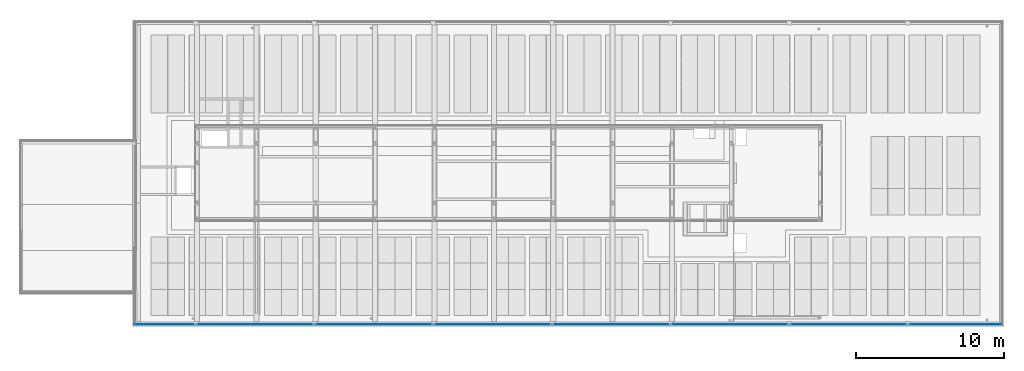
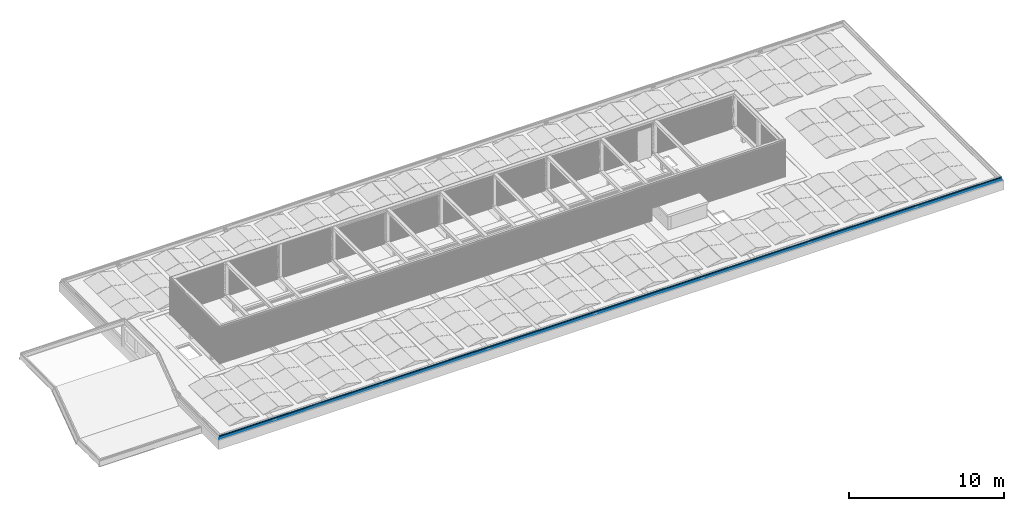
# One storey, part 29 of 63: 3 building element parts, 1 element without a shape of its own.
"""IFC2X3 building model written with IfcOpenShell, lengths in millimetres."""

from ifc_helpers import new_model, entity, si_unit, converted_unit, derived_unit, money_unit, direction, frame, origin_with_axes, place, context, subcontext, project, spatial, faceted_brep, material, type_object, element, aggregate, save


model = new_model("IFC2X3")

# Units and contexts
model_context = context("Model", 3, precision=0.01, world=origin_with_axes(), true_north=direction((0.0, 1.0)))
body_context = subcontext(model_context, "Body", "Model", "MODEL_VIEW")
ifc_project = project(units=[si_unit("LENGTHUNIT", "METRE", prefix="MILLI"), si_unit("AREAUNIT", "SQUARE_METRE"), si_unit("VOLUMEUNIT", "CUBIC_METRE"), converted_unit("PLANEANGLEUNIT", "DEGREE", entity("IfcPlaneAngleMeasure", 0.0174532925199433), si_unit("PLANEANGLEUNIT", "RADIAN"), dimensions=[0, 0, 0, 0, 0, 0, 0]), money_unit("EUR"), converted_unit("TIMEUNIT", "Year", entity("IfcTimeMeasure", 31557600.0), si_unit("TIMEUNIT", "SECOND"), dimensions=[0, 0, 1, 0, 0, 0, 0]), si_unit("MASSUNIT", "GRAM", prefix="KILO"), si_unit("THERMODYNAMICTEMPERATUREUNIT", "DEGREE_CELSIUS"), si_unit("LUMINOUSINTENSITYUNIT", "LUMEN"), si_unit("ENERGYUNIT", "JOULE", prefix="MEGA"), derived_unit("THERMALCONDUCTANCEUNIT", [(si_unit("POWERUNIT", "WATT"), 1), (si_unit("LENGTHUNIT", "METRE"), -1), (si_unit("THERMODYNAMICTEMPERATUREUNIT", "KELVIN"), -1)]), derived_unit("SPECIFICHEATCAPACITYUNIT", [(si_unit("ENERGYUNIT", "JOULE"), 1), (si_unit("MASSUNIT", "GRAM", prefix="KILO"), -1), (si_unit("THERMODYNAMICTEMPERATUREUNIT", "KELVIN"), -1)]), derived_unit("MASSDENSITYUNIT", [(si_unit("MASSUNIT", "GRAM", prefix="KILO"), 1), (si_unit("VOLUMEUNIT", "CUBIC_METRE"), -1)])], contexts=[model_context])

# Site, building, storey
site_placement = place(None, origin_with_axes())
site = spatial("IfcSite", under=ifc_project, at=site_placement, Name="<site naam>", CompositionType="ELEMENT")
building_placement = place(site_placement, origin_with_axes())
building = spatial("IfcBuilding", under=site, at=building_placement, Name="<Naam gebouw>", CompositionType="ELEMENT")
storey_placement = place(building_placement, frame((0.0, 0.0, 12770.0), z_axis=(0.0, 0.0, 1.0), x_axis=(1.0, 0.0, 0.0)))
storey = spatial("IfcBuildingStorey", under=building, at=storey_placement, Name="04 4e verdieping", CompositionType="ELEMENT", Elevation=12770.0)

# Beam, building element parts
beam_type = type_object("IfcBeamType", Name="Aluminium daktrim 45 x 250", PredefinedType="BEAM")
beam_placement = place(storey_placement, frame((11665.00000242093, -324.9999975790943, -14.55215314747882), z_axis=(0.0, 0.0, 1.0), x_axis=(0.0, -1.0, 0.0)))
beam = element("IfcBeam", 1, at=beam_placement, inside=storey, type_object=beam_type, Name="47_Balk_Aluminium", ObjectType="BEAM")
ifc_material = material(Name="aluminium")
building_element_part_1_placement = place(beam_placement, origin_with_axes())
building_element_part_1 = element("IfcBuildingElementPart", 2, at=building_element_part_1_placement, material=ifc_material, Name="aluminium", context=body_context, shape_type="Brep", body=[
    faceted_brep([(-121.4991945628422, 58583.50080059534, 294.0656451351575), (-122.2068758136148, 58582.79311934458, 293.7721760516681), (-122.2068758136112, 122.2068758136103, 293.7721760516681), (-121.4991945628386, 121.499194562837, 294.0656451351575), (-110.9991946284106, 58594.00080052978, 294.0656451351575), (-110.292087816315, 58594.70790734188, 293.7727519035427), (-109.9991945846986, 58595.00080057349, 293.0656450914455), (-109.9991945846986, 58595.00080057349, 250.0656451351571), (-110.2920878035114, 58594.70790735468, 249.3585383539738), (-110.9991945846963, 58594.00080057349, 249.0656451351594), (-111.4991731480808, 58593.50082201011, 249.1996073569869), (-117.6977781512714, 58587.30221700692, 252.7781690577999), (-117.9774779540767, 58587.02251720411, 253.1426342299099), (-117.917573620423, 58587.08242153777, 253.598132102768), (-117.5531500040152, 58587.44684515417, 253.8778860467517), (-117.0976432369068, 58587.90235192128, 253.8180493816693), (-113.897632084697, 58591.10236307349, 251.9718951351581), (-113.897632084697, 58591.10236307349, 252.565645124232), (-113.7511854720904, 58591.2488096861, 252.9191985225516), (-113.3976320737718, 58591.60236308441, 253.0656451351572), (-113.1984133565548, 58591.80158180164, 253.0656451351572), (-112.8448599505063, 58592.15513520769, 252.9191985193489), (-112.6984133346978, 58592.30158182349, 252.5656451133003), (-112.6984133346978, 58592.30158182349, 251.278535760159), (-111.9489165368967, 58593.05107862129, 250.8452329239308), (-111.6116899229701, 58593.38830523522, 250.7856033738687), (-111.315064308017, 58593.68493085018, 250.9567486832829), (-111.1979101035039, 58593.80208505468, 251.278544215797), (-111.1984133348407, 58593.80158182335, 281.0656535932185), (-111.3448629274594, 58593.65513223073, 281.419201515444), (-111.6984133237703, 58593.30158183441, 281.5656451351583), (-112.198413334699, 58592.80158182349, 281.5656451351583), (-112.5519667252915, 58592.44802843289, 281.4191985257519), (-112.6984133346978, 58592.30158182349, 281.0656451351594), (-112.6984133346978, 58592.30158182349, 279.5656451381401), (-112.8448599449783, 58592.15513521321, 279.212091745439), (-113.198413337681, 58591.80158182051, 279.065645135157), (-114.9718508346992, 58590.02814432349, 279.065645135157), (-120.1773366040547, 58584.82265855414, 275.7461395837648), (-120.3116945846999, 58584.68830057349, 275.4250201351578), (-120.5695070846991, 58584.4304880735, 275.3156451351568), (-120.8898195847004, 58584.11017557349, 275.448457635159), (-121.5401955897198, 58583.45979956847, 275.2060759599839), (-121.6945070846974, 58583.3054880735, 274.897676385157), (-121.964038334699, 58583.0359568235, 274.8078326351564), (-122.2726320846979, 58582.72736307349, 274.9640826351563), (-128.1981216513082, 58576.80187350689, 274.066030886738), (-154.6486035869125, 58550.35139157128, 274.0656451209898), (-154.8951277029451, 58550.10486745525, 274.1677553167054), (-154.9972414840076, 58550.00275367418, 274.4142779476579), (-154.894784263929, 58550.10521089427, 274.6611444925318), (-154.6476320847, 58550.35236307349, 274.7629107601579), (-149.9991945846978, 58555.0008005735, 275.2648638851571), (-149.6984133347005, 58555.30158182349, 275.565645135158), (-147.2999758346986, 58557.7000193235, 275.565645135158), (-146.9991945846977, 58558.00080057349, 275.2648638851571), (-143.9991945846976, 58561.00080057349, 275.2648638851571), (-143.6984133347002, 58561.30158182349, 275.565645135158), (-141.2999758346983, 58563.7000193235, 275.565645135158), (-140.999194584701, 58564.00080057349, 275.2648638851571), (-137.9991945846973, 58567.00080057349, 275.2648638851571), (-137.6984133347, 58567.30158182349, 275.565645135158), (-135.2999758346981, 58569.70001932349, 275.565645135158), (-134.9991945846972, 58570.00080057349, 275.2648638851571), (-131.9991945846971, 58573.0008005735, 275.2648638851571), (-131.6984133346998, 58573.30158182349, 275.565645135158), (-129.2999758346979, 58575.70001932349, 275.565645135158), (-128.999194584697, 58576.00080057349, 275.2648638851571), (-128.1984107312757, 58576.80158442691, 275.2648638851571), (-120.0158638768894, 58584.98413128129, 277.1388822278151), (-113.4645529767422, 58591.53544218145, 282.3873432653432), (-112.6841977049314, 58592.31579745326, 282.7641787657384), (-112.197003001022, 58592.80299215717, 282.7648658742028), (-111.490808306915, 58593.50918685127, 283.0582564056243), (-111.1984133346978, 58593.80158182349, 283.7648638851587), (-111.1984133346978, 58593.80158182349, 292.3664263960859), (-111.3448599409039, 58593.65513521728, 292.719979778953), (-111.6984133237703, 58593.30158183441, 292.8664263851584), (-120.7999758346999, 58584.2000193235, 292.8664263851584), (-121.1535292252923, 58583.8464659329, 292.7199797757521), (-121.2999758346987, 58583.70001932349, 292.3664263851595), (-121.2999758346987, 58583.70001932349, 290.6652544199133), (-121.4748532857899, 58583.52514187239, 290.2428198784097), (-121.8971453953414, 58583.10284976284, 290.0675987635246), (-122.3197220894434, 58582.68027306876, 290.2421324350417), (-122.4952867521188, 58582.50470840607, 290.6642818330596), (-122.4991919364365, 58582.50080322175, 293.0640177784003), (-122.4991919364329, 122.4991919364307, 293.0640177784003), (-122.4952867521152, 122.4952867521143, 290.6642818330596), (-122.3197220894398, 122.3197220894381, 290.2421324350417), (-121.8971453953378, 121.8971453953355, 290.0675987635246), (-121.4748532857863, 121.4748532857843, 290.2428198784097), (-121.2999758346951, 121.2999758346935, 290.6652544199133), (-121.2999758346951, 121.2999758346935, 292.3664263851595), (-121.1535292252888, 121.1535292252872, 292.7199797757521), (-120.7999758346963, 120.7999758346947, 292.8664263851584), (-111.6984133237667, 111.6984133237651, 292.8664263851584), (-111.3448599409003, 111.3448599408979, 292.719979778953), (-111.1984133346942, 111.1984133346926, 292.3664263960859), (-111.1984133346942, 111.1984133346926, 283.7648638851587), (-111.4908083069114, 111.4908083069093, 283.0582564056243), (-112.1970030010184, 112.1970030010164, 282.7648658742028), (-112.6841977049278, 112.684197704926, 282.7641787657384), (-113.4645529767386, 113.4645529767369, 282.3873432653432), (-120.0158638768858, 120.0158638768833, 277.1388822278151), (-128.1984107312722, 128.1984107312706, 275.2648638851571), (-128.9991945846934, 128.9991945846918, 275.2648638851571), (-129.2999758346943, 129.2999758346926, 275.565645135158), (-131.6984133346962, 131.6984133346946, 275.565645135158), (-131.9991945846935, 131.9991945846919, 275.2648638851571), (-134.9991945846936, 134.999194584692, 275.2648638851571), (-135.2999758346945, 135.2999758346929, 275.565645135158), (-137.6984133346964, 137.6984133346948, 275.565645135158), (-137.9991945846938, 137.9991945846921, 275.2648638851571), (-140.9991945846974, 140.9991945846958, 275.2648638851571), (-141.2999758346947, 141.2999758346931, 275.565645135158), (-143.6984133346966, 143.698413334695, 275.565645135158), (-143.999194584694, 143.9991945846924, 275.2648638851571), (-146.9991945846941, 146.9991945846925, 275.2648638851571), (-147.2999758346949, 147.2999758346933, 275.565645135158), (-149.6984133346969, 149.6984133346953, 275.565645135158), (-149.9991945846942, 149.9991945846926, 275.2648638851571), (-154.6476320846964, 154.6476320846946, 274.7629107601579), (-154.8947842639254, 154.8947842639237, 274.6611444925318), (-154.997241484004, 154.9972414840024, 274.4142779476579), (-154.8951277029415, 154.8951277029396, 274.1677553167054), (-154.6486035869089, 154.6486035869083, 274.0656451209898), (-128.1981216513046, 128.1981216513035, 274.066030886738), (-122.2726320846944, 122.2726320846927, 274.9640826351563), (-121.9640383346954, 121.9640383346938, 274.8078326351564), (-121.6945070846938, 121.6945070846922, 274.897676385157), (-121.5401955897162, 121.5401955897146, 275.2060759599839), (-120.8898195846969, 120.8898195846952, 275.448457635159), (-120.5695070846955, 120.5695070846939, 275.3156451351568), (-120.3116945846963, 120.3116945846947, 275.4250201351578), (-120.1773366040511, 120.1773366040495, 275.7461395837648), (-114.9718508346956, 114.971850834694, 279.065645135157), (-113.1984133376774, 113.1984133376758, 279.065645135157), (-112.8448599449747, 112.844859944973, 279.212091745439), (-112.6984133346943, 112.6984133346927, 279.5656451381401), (-112.6984133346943, 112.6984133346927, 281.0656451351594), (-112.5519667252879, 112.5519667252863, 281.4191985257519), (-112.1984133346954, 112.1984133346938, 281.5656451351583), (-111.6984133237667, 111.6984133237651, 281.5656451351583), (-111.3448629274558, 111.3448629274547, 281.419201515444), (-111.1984133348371, 111.1984133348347, 281.0656535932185), (-111.1979101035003, 111.197910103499, 251.278544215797), (-111.3150643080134, 111.3150643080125, 250.9567486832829), (-111.6116899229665, 111.6116899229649, 250.7856033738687), (-111.9489165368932, 111.9489165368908, 250.8452329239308), (-112.6984133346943, 112.6984133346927, 251.278535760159), (-112.6984133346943, 112.6984133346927, 252.5656451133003), (-112.8448599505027, 112.844859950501, 252.9191985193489), (-113.1984133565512, 113.1984133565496, 253.0656451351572), (-113.3976320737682, 113.3976320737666, 253.0656451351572), (-113.7511854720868, 113.7511854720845, 252.9191985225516), (-113.8976320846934, 113.8976320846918, 252.565645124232), (-113.8976320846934, 113.8976320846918, 251.9718951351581), (-117.0976432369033, 117.0976432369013, 253.8180493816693), (-117.5531500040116, 117.5531500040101, 253.8778860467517), (-117.9175736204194, 117.9175736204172, 253.598132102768), (-117.9774779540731, 117.9774779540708, 253.1426342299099), (-117.6977781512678, 117.6977781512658, 252.7781690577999), (-111.4991731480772, 111.4991731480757, 249.1996073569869), (-110.9991945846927, 110.9991945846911, 249.0656451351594), (-110.2920878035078, 110.2920878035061, 249.3585383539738), (-109.999194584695, 109.9991945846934, 250.0656451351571), (-109.999194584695, 109.9991945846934, 293.0656450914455), (-110.2920878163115, 110.2920878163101, 293.7727519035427), (-110.9991946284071, 110.9991946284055, 294.0656451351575)], [[[0, 1, 2, 3]], [[0, 4, 5, 6, 7, 8, 9, 10, 11, 12, 13, 14, 15, 16, 17, 18, 19, 20, 21, 22, 23, 24, 25, 26, 27, 28, 29, 30, 31, 32, 33, 34, 35, 36, 37, 38, 39, 40, 41, 42, 43, 44, 45, 46, 47, 48, 49, 50, 51, 52, 53, 54, 55, 56, 57, 58, 59, 60, 61, 62, 63, 64, 65, 66, 67, 68, 69, 70, 71, 72, 73, 74, 75, 76, 77, 78, 79, 80, 81, 82, 83, 84, 85, 86, 1]], [[1, 86, 87, 2]], [[3, 2, 87, 88, 89, 90, 91, 92, 93, 94, 95, 96, 97, 98, 99, 100, 101, 102, 103, 104, 105, 106, 107, 108, 109, 110, 111, 112, 113, 114, 115, 116, 117, 118, 119, 120, 121, 122, 123, 124, 125, 126, 127, 128, 129, 130, 131, 132, 133, 134, 135, 136, 137, 138, 139, 140, 141, 142, 143, 144, 145, 146, 147, 148, 149, 150, 151, 152, 153, 154, 155, 156, 157, 158, 159, 160, 161, 162, 163, 164, 165, 166, 167, 168, 169]], [[4, 0, 3, 169]], [[5, 4, 169, 168]], [[6, 5, 168, 167]], [[7, 6, 167, 166]], [[8, 7, 166, 165]], [[9, 8, 165, 164]], [[10, 9, 164, 163]], [[11, 10, 163, 162]], [[12, 11, 162, 161]], [[13, 12, 161, 160]], [[14, 13, 160, 159]], [[15, 14, 159, 158]], [[16, 15, 158, 157]], [[17, 16, 157, 156]], [[18, 17, 156, 155]], [[19, 18, 155, 154]], [[20, 19, 154, 153]], [[21, 20, 153, 152]], [[22, 21, 152, 151]], [[23, 22, 151, 150]], [[24, 23, 150, 149]], [[25, 24, 149, 148]], [[26, 25, 148, 147]], [[27, 26, 147, 146]], [[28, 27, 146, 145]], [[29, 28, 145, 144]], [[30, 29, 144, 143]], [[31, 30, 143, 142]], [[32, 31, 142, 141]], [[33, 32, 141, 140]], [[34, 33, 140, 139]], [[35, 34, 139, 138]], [[36, 35, 138, 137]], [[37, 36, 137, 136]], [[38, 37, 136, 135]], [[39, 38, 135, 134]], [[40, 39, 134, 133]], [[41, 40, 133, 132]], [[42, 41, 132, 131]], [[43, 42, 131, 130]], [[44, 43, 130, 129]], [[45, 44, 129, 128]], [[46, 45, 128, 127]], [[47, 46, 127, 126]], [[48, 47, 126, 125]], [[49, 48, 125, 124]], [[50, 49, 124, 123]], [[51, 50, 123, 122]], [[52, 51, 122, 121]], [[53, 52, 121, 120]], [[54, 53, 120, 119]], [[55, 54, 119, 118]], [[56, 55, 118, 117]], [[57, 56, 117, 116]], [[58, 57, 116, 115]], [[59, 58, 115, 114]], [[60, 59, 114, 113]], [[61, 60, 113, 112]], [[62, 61, 112, 111]], [[63, 62, 111, 110]], [[64, 63, 110, 109]], [[65, 64, 109, 108]], [[66, 65, 108, 107]], [[67, 66, 107, 106]], [[68, 67, 106, 105]], [[69, 68, 105, 104]], [[70, 69, 104, 103]], [[71, 70, 103, 102]], [[72, 71, 102, 101]], [[73, 72, 101, 100]], [[74, 73, 100, 99]], [[75, 74, 99, 98]], [[76, 75, 98, 97]], [[77, 76, 97, 96]], [[78, 77, 96, 95]], [[79, 78, 95, 94]], [[80, 79, 94, 93]], [[81, 80, 93, 92]], [[82, 81, 92, 91]], [[83, 82, 91, 90]], [[84, 83, 90, 89]], [[85, 84, 89, 88]], [[86, 85, 88, 87]]]),
])
building_element_part_2_placement = place(beam_placement, origin_with_axes())
building_element_part_2 = element("IfcBuildingElementPart", 3, at=building_element_part_2_placement, material=ifc_material, Name="aluminium", context=body_context, shape_type="Brep", body=[
    faceted_brep([(-143.0058874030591, 58561.99410775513, 241.8720983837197), (-111.197910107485, 58593.8020850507, 237.7678423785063), (-111.1979101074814, 111.1979101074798, 237.7678423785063), (-143.0058874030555, 143.0058874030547, 241.8720983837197), (-143.0058874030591, 58561.99410775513, 253.0654661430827), (-141.8058874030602, 58563.19410775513, 253.0654661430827), (-141.8058874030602, 58563.19410775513, 243.1686919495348), (-110.0058874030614, 58594.99410775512, 239.0654661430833), (-110.0058874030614, 58594.99410775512, 44.56563661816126), (-115.2058874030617, 58589.79410775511, 44.56563661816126), (-115.2058874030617, 58589.79410775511, 61.56563661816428), (-114.0058874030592, 58590.99410775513, 61.56563661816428), (-114.0058874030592, 58590.99410775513, 45.7656366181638), (-111.197910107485, 58593.8020850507, 45.7656366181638), (-111.1979101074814, 111.1979101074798, 45.7656366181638), (-114.0058874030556, 114.0058874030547, 45.7656366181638), (-114.0058874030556, 114.0058874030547, 61.56563661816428), (-115.205887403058, 115.2058874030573, 61.56563661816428), (-115.205887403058, 115.2058874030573, 44.56563661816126), (-110.0058874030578, 110.0058874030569, 44.56563661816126), (-110.0058874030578, 110.0058874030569, 239.0654661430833), (-141.8058874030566, 141.8058874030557, 243.1686919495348), (-141.8058874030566, 141.8058874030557, 253.0654661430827), (-143.0058874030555, 143.0058874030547, 253.0654661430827)], [[[0, 1, 2, 3]], [[0, 4, 5, 6, 7, 8, 9, 10, 11, 12, 13, 1]], [[1, 13, 14, 2]], [[3, 2, 14, 15, 16, 17, 18, 19, 20, 21, 22, 23]], [[4, 0, 3, 23]], [[5, 4, 23, 22]], [[6, 5, 22, 21]], [[7, 6, 21, 20]], [[8, 7, 20, 19]], [[9, 8, 19, 18]], [[10, 9, 18, 17]], [[11, 10, 17, 16]], [[12, 11, 16, 15]], [[13, 12, 15, 14]]]),
])
building_element_part_3_placement = place(beam_placement, origin_with_axes())
building_element_part_3 = element("IfcBuildingElementPart", 4, at=building_element_part_3_placement, material=ifc_material, Name="aluminium", context=body_context, shape_type="Brep", body=[
    faceted_brep([(-112.005893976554, 58592.99410118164, 49.56563034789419), (-112.005893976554, 58592.99410118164, 69.56564503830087), (-112.0058939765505, 112.0058939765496, 69.56564503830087), (-112.0058939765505, 112.0058939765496, 49.56563034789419), (-113.2058874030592, 58591.79410775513, 49.56563034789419), (-113.2058874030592, 58591.79410775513, 68.55872432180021), (-145.0058874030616, 58559.99410775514, 74.16592230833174), (-145.0058874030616, 58559.99410775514, 89.56564503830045), (-143.8058874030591, 58561.19410775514, 89.56564503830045), (-143.8058874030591, 58561.19410775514, 75.17284186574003), (-143.8058874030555, 143.8058874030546, 75.17284186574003), (-143.8058874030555, 143.8058874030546, 89.56564503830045), (-145.005887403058, 145.0058874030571, 89.56564503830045), (-145.005887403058, 145.0058874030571, 74.16592230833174), (-113.2058874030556, 113.205887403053, 68.55872432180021), (-113.2058874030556, 113.205887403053, 49.56563034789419)], [[[0, 1, 2, 3]], [[0, 4, 5, 6, 7, 8, 9, 1]], [[1, 9, 10, 2]], [[3, 2, 10, 11, 12, 13, 14, 15]], [[4, 0, 3, 15]], [[5, 4, 15, 14]], [[6, 5, 14, 13]], [[7, 6, 13, 12]], [[8, 7, 12, 11]], [[9, 8, 11, 10]]]),
])
aggregate(beam, [building_element_part_1, building_element_part_2, building_element_part_3])

save(model, "model.ifc")
